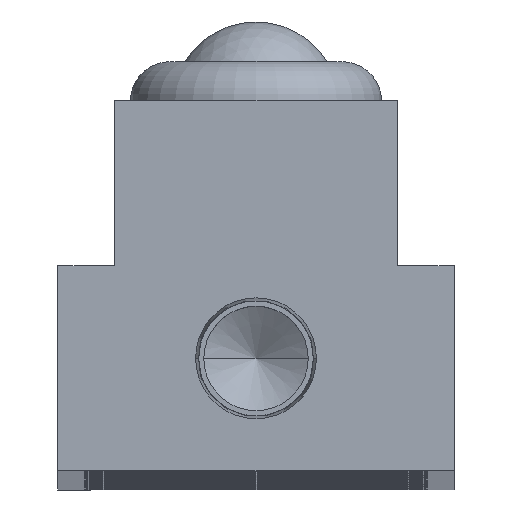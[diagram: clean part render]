
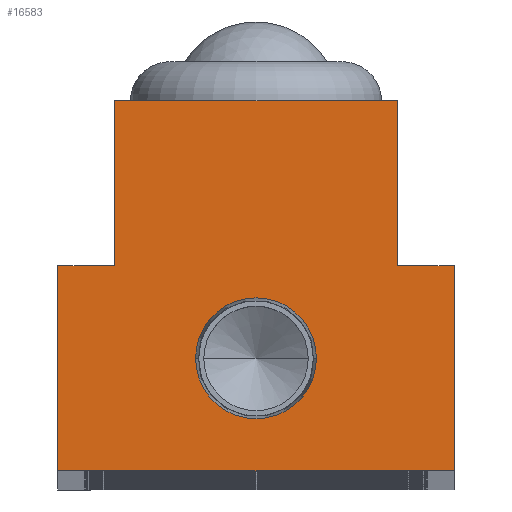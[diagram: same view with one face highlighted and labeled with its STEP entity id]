
A CAD part, top view. The second image highlights one B-rep face of the part: STEP entity #16583.
In plain terms, the highlighted planar face has unit normal (0, 0, 1).
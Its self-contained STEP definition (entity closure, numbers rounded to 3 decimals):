
#248 = AXIS2_PLACEMENT_3D ( 'NONE', #14664, #3894, #16481 ) ;
#475 = EDGE_CURVE ( 'NONE', #1348, #8929, #21596, .T. ) ;
#552 = CARTESIAN_POINT ( 'NONE',  ( -10.7, 15.5, 0. ) ) ;
#623 = DIRECTION ( 'NONE',  ( 1., 0., 0. ) ) ;
#651 = VERTEX_POINT ( 'NONE', #9500 ) ;
#708 = ORIENTED_EDGE ( 'NONE', *, *, #16452, .T. ) ;
#1149 = DIRECTION ( 'NONE',  ( 0., 1., 0. ) ) ;
#1348 = VERTEX_POINT ( 'NONE', #19069 ) ;
#1462 = PLANE ( 'NONE',  #1917 ) ;
#1546 = DIRECTION ( 'NONE',  ( 1., 0., 0. ) ) ;
#1917 = AXIS2_PLACEMENT_3D ( 'NONE', #6924, #12353, #1546 ) ;
#2218 = EDGE_CURVE ( 'NONE', #8929, #7409, #16999, .T. ) ;
#2353 = DIRECTION ( 'NONE',  ( -1., 0., 0. ) ) ;
#2366 = ORIENTED_EDGE ( 'NONE', *, *, #475, .T. ) ;
#2824 = VERTEX_POINT ( 'NONE', #15052 ) ;
#3059 = EDGE_CURVE ( 'NONE', #2824, #6175, #8707, .T. ) ;
#3894 = DIRECTION ( 'NONE',  ( 0., 0., 1. ) ) ;
#4230 = DIRECTION ( 'NONE',  ( 0., -1., 0. ) ) ;
#4488 = EDGE_CURVE ( 'NONE', #5177, #2824, #5566, .T. ) ;
#4824 = EDGE_LOOP ( 'NONE', ( #7695, #16464, #10081, #19895, #7166, #13497, #708, #2366 ) ) ;
#5177 = VERTEX_POINT ( 'NONE', #9230 ) ;
#5566 = LINE ( 'NONE', #22157, #14561 ) ;
#5763 = CARTESIAN_POINT ( 'NONE',  ( 10.7, 15.5, 0. ) ) ;
#6104 = VERTEX_POINT ( 'NONE', #7747 ) ;
#6175 = VERTEX_POINT ( 'NONE', #20556 ) ;
#6541 = CARTESIAN_POINT ( 'NONE',  ( 10.7, 15.5, 0. ) ) ;
#6924 = CARTESIAN_POINT ( 'NONE',  ( 0., 0., 0. ) ) ;
#7166 = ORIENTED_EDGE ( 'NONE', *, *, #9522, .T. ) ;
#7272 = CARTESIAN_POINT ( 'NONE',  ( 15., 0., 0. ) ) ;
#7409 = VERTEX_POINT ( 'NONE', #14889 ) ;
#7507 = DIRECTION ( 'NONE',  ( -1., 0., 0. ) ) ;
#7695 = ORIENTED_EDGE ( 'NONE', *, *, #2218, .T. ) ;
#7747 = CARTESIAN_POINT ( 'NONE',  ( -15., 0., 0. ) ) ;
#8034 = ORIENTED_EDGE ( 'NONE', *, *, #13869, .F. ) ;
#8578 = EDGE_LOOP ( 'NONE', ( #8034, #16711 ) ) ;
#8670 = EDGE_CURVE ( 'NONE', #6104, #10755, #16894, .T. ) ;
#8707 = LINE ( 'NONE', #552, #17724 ) ;
#8929 = VERTEX_POINT ( 'NONE', #6541 ) ;
#9149 = CARTESIAN_POINT ( 'NONE',  ( -4.574, 8.5, 0. ) ) ;
#9178 = FACE_OUTER_BOUND ( 'NONE', #4824, .T. ) ;
#9230 = CARTESIAN_POINT ( 'NONE',  ( -10.7, 28., 0. ) ) ;
#9500 = CARTESIAN_POINT ( 'NONE',  ( 4.574, 8.5, 0. ) ) ;
#9518 = VECTOR ( 'NONE', #12096, 1000. ) ;
#9522 = EDGE_CURVE ( 'NONE', #6175, #6104, #14298, .T. ) ;
#10081 = ORIENTED_EDGE ( 'NONE', *, *, #4488, .T. ) ;
#10755 = VERTEX_POINT ( 'NONE', #7272 ) ;
#10806 = EDGE_CURVE ( 'NONE', #7409, #5177, #22380, .T. ) ;
#11044 = CARTESIAN_POINT ( 'NONE',  ( -10.7, 28., 0. ) ) ;
#11274 = CIRCLE ( 'NONE', #248, 4.574 ) ;
#11438 = DIRECTION ( 'NONE',  ( 0., 0., 1. ) ) ;
#11943 = CARTESIAN_POINT ( 'NONE',  ( 15., 0., 0. ) ) ;
#12013 = VECTOR ( 'NONE', #1149, 1000. ) ;
#12038 = VECTOR ( 'NONE', #18283, 1000. ) ;
#12096 = DIRECTION ( 'NONE',  ( 0., -1., 0. ) ) ;
#12224 = VECTOR ( 'NONE', #12451, 1000. ) ;
#12303 = VERTEX_POINT ( 'NONE', #9149 ) ;
#12353 = DIRECTION ( 'NONE',  ( 0., 0., 1. ) ) ;
#12451 = DIRECTION ( 'NONE',  ( 0., 1., 0. ) ) ;
#12845 = VECTOR ( 'NONE', #7507, 1000. ) ;
#12952 = DIRECTION ( 'NONE',  ( 1., 0., 0. ) ) ;
#13497 = ORIENTED_EDGE ( 'NONE', *, *, #8670, .T. ) ;
#13869 = EDGE_CURVE ( 'NONE', #651, #12303, #19865, .T. ) ;
#14298 = LINE ( 'NONE', #19226, #9518 ) ;
#14561 = VECTOR ( 'NONE', #4230, 1000. ) ;
#14664 = CARTESIAN_POINT ( 'NONE',  ( 0., 8.5, 0. ) ) ;
#14889 = CARTESIAN_POINT ( 'NONE',  ( 10.7, 28., 0. ) ) ;
#15052 = CARTESIAN_POINT ( 'NONE',  ( -10.7, 15.5, 0. ) ) ;
#16452 = EDGE_CURVE ( 'NONE', #10755, #1348, #16792, .T. ) ;
#16464 = ORIENTED_EDGE ( 'NONE', *, *, #10806, .T. ) ;
#16481 = DIRECTION ( 'NONE',  ( 1., 0., 0. ) ) ;
#16556 = CARTESIAN_POINT ( 'NONE',  ( 15., 0., 0. ) ) ;
#16583 = ADVANCED_FACE ( 'NONE', ( #18762, #9178 ), #1462, .T. ) ;
#16711 = ORIENTED_EDGE ( 'NONE', *, *, #21944, .F. ) ;
#16792 = LINE ( 'NONE', #11943, #12013 ) ;
#16894 = LINE ( 'NONE', #16556, #21089 ) ;
#16999 = LINE ( 'NONE', #19607, #12224 ) ;
#17724 = VECTOR ( 'NONE', #2353, 1000. ) ;
#18283 = DIRECTION ( 'NONE',  ( -1., 0., 0. ) ) ;
#18762 = FACE_BOUND ( 'NONE', #8578, .T. ) ;
#19069 = CARTESIAN_POINT ( 'NONE',  ( 15., 15.5, 0. ) ) ;
#19226 = CARTESIAN_POINT ( 'NONE',  ( -15., 0., 0. ) ) ;
#19607 = CARTESIAN_POINT ( 'NONE',  ( 10.7, 28., 0. ) ) ;
#19865 = CIRCLE ( 'NONE', #22613, 4.574 ) ;
#19895 = ORIENTED_EDGE ( 'NONE', *, *, #3059, .T. ) ;
#20556 = CARTESIAN_POINT ( 'NONE',  ( -15., 15.5, 0. ) ) ;
#21089 = VECTOR ( 'NONE', #12952, 1000. ) ;
#21596 = LINE ( 'NONE', #5763, #12038 ) ;
#21944 = EDGE_CURVE ( 'NONE', #12303, #651, #11274, .T. ) ;
#22157 = CARTESIAN_POINT ( 'NONE',  ( -10.7, 28., 0. ) ) ;
#22180 = CARTESIAN_POINT ( 'NONE',  ( 0., 8.5, 0. ) ) ;
#22380 = LINE ( 'NONE', #11044, #12845 ) ;
#22613 = AXIS2_PLACEMENT_3D ( 'NONE', #22180, #11438, #623 ) ;
